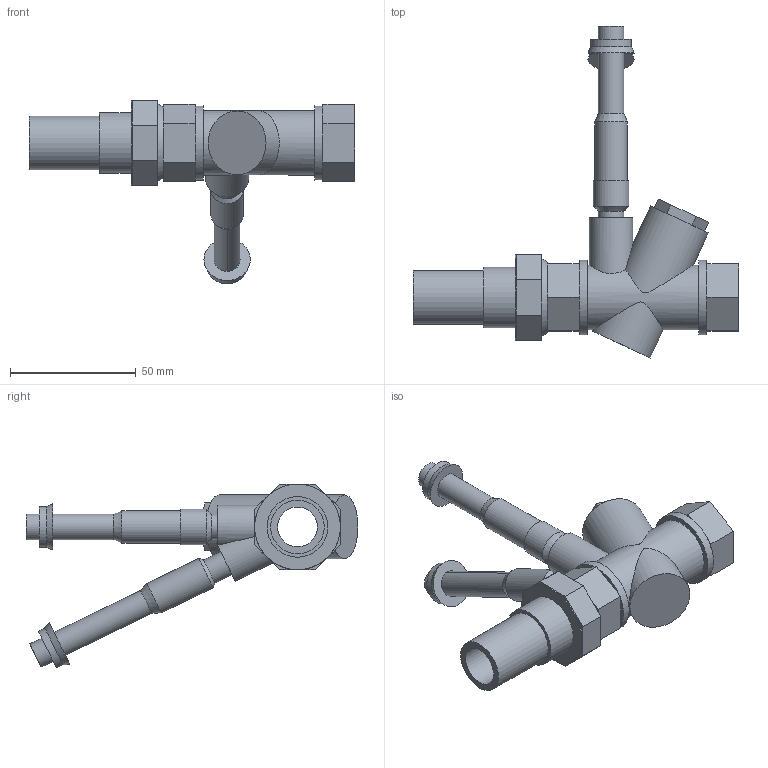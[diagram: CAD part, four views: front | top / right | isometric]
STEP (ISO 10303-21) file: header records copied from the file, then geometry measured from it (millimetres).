
FILE_DESCRIPTION(/* description */ ('VIC VALVE AUTO BALANCING SERIES 76K (SWTxFPT)','CAx-IF Rec.Pracs.---Representation and Presentation of Product Manufacturing Information (PMI)---4.0---2014-10-13'),/* implementation_level */ '2;1');
FILE_NAME(/* name */ 'C:\Users\kkamble\Desktop\KIRAN\2022\76B & 76K\76K\STEP\Victaulic_IPS_Valve Auto Balancing_Series 76K (SWTxFPT)\Victaulic_IPS_Valve Auto Balancing_Series 76K (SWTxFPT)_0.5 (15).stp',/* time_stamp */ '2022-03-04T13:34:01+05:00',/* author */ ('kkamble'),/* organization */ ('Victaulic'),/* preprocessor_version */ 'ST-DEVELOPER v17.2',/* originating_system */ 'Autodesk Inventor 2019',/* authorisation */ '');
FILE_SCHEMA (('AP242_MANAGED_MODEL_BASED_3D_ENGINEERING_MIM_LF { 1 0 10303 442 1 1 4 }'));
Length unit declared in the file: inch
Products named in the file (1): 76K-0.5
Bounding box: 129.54 x 132.08 x 73.2 mm (x, y, z)
Volume: 77143.7 mm3; surface area: 31568.4 mm2
Topology: 2 solids, 2 shells, 126 faces, 303 edges, 192 vertices
Faces by surface type: plane 90, cylinder 24, cone 12
Full cylindrical faces by diameter (mm): 10.16 x4, 12.954 x2, 14.122 x1, 15.799 x1, 16.256 x1, 21.336 x2, 24.13 x1, 25.4 x2, 25.654 x1, 29.693 x2, 34.138 x1
Entity records: 4134 total; most frequent: CARTESIAN_POINT 846, DIRECTION 708, ORIENTED_EDGE 606, EDGE_CURVE 303, AXIS2_PLACEMENT_3D 275, VERTEX_POINT 192, LINE 158, VECTOR 158
